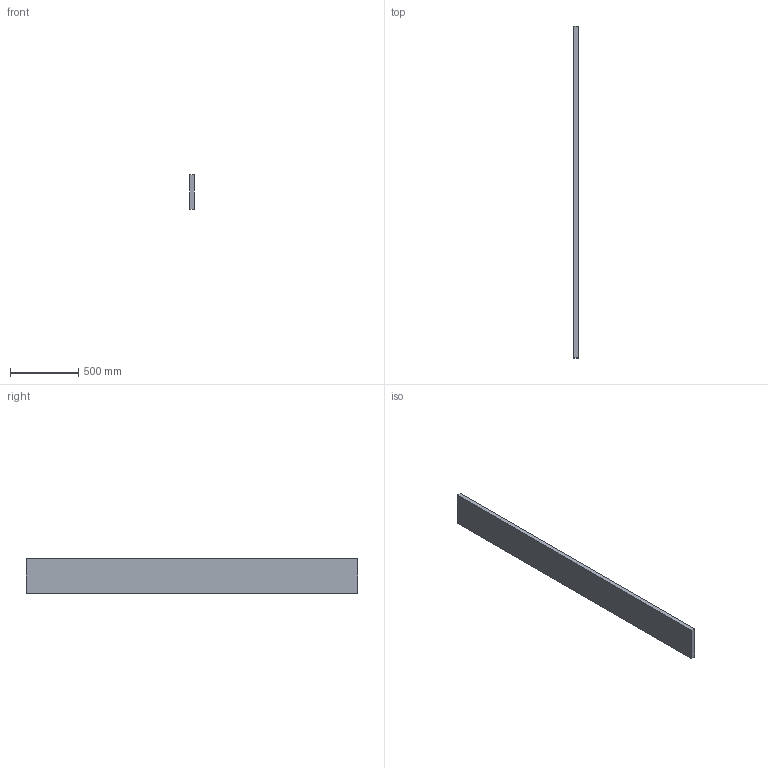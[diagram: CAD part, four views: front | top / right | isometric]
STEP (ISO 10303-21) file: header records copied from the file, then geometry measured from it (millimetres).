
FILE_DESCRIPTION(/* description */ (''),/* implementation_level */ '2;1');
FILE_NAME(/* name */ 'SM_Baffle1.2x10x96',/* time_stamp */ '2024-10-15T11:56:46-05:00',/* author */ (''),/* organization */ (''),/* preprocessor_version */ 'ST-DEVELOPER v19.2',/* originating_system */ 'Rhino 8.4',/* authorisation */ '');
FILE_SCHEMA (('CONFIG_CONTROL_DESIGN'));
Length unit declared in the file: inch
Products named in the file (1): Document
Bounding box: 30.48 x 2438.4 x 254 mm (x, y, z)
Volume: 18877897.7 mm3; surface area: 1402835.9 mm2
Topology: 1 solids, 1 shells, 6 faces, 12 edges, 8 vertices
Faces by surface type: plane 6
Entity records: 226 total; most frequent: CARTESIAN_POINT 40, ORIENTED_EDGE 24, EDGE_CURVE 12, B_SPLINE_CURVE_WITH_KNOTS 12, DIRECTION 10, VERTEX_POINT 8, AXIS2_PLACEMENT_3D 8, ORGANIZATION 7
